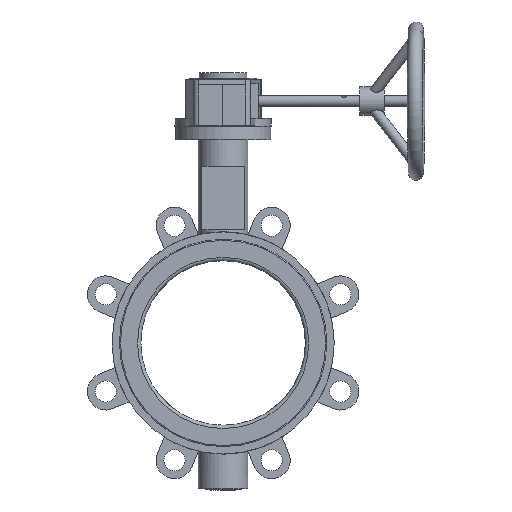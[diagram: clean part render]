
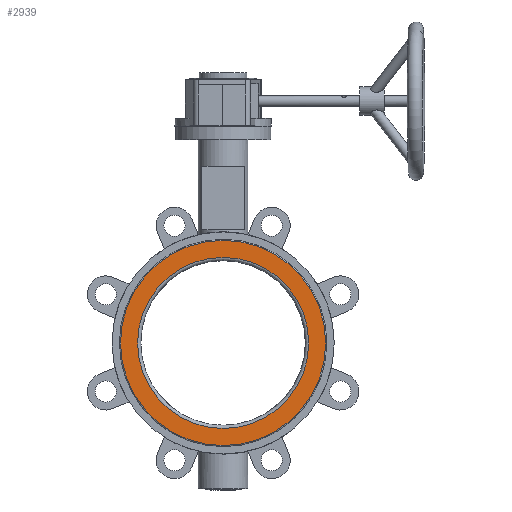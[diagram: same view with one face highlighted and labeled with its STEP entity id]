
A CAD part, front view. The second image highlights one B-rep face of the part: STEP entity #2939.
In plain terms, the highlighted planar face has unit normal (0, -1, 0) as drawn and (1, 0, 0) by its records, which use the part's own axes.
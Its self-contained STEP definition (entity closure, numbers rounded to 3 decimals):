
#19 = CIRCLE ( 'NONE', #9001, 80.889 ) ;
#269 = ORIENTED_EDGE ( 'NONE', *, *, #3215, .F. ) ;
#783 = DIRECTION ( 'NONE',  ( 0., 0., 1. ) ) ;
#1047 = DIRECTION ( 'NONE',  ( -1., 0., 0. ) ) ;
#1244 = AXIS2_PLACEMENT_3D ( 'NONE', #4931, #5654, #8684 ) ;
#1374 = AXIS2_PLACEMENT_3D ( 'NONE', #2301, #5416, #783 ) ;
#1709 = VERTEX_POINT ( 'NONE', #7707 ) ;
#2301 = CARTESIAN_POINT ( 'NONE',  ( 30., 97., 0. ) ) ;
#2939 = ADVANCED_FACE ( 'NONE', ( #5590, #3005 ), #4644, .F. ) ;
#3005 = FACE_BOUND ( 'NONE', #4725, .T. ) ;
#3215 = EDGE_CURVE ( 'NONE', #5739, #5739, #7582, .T. ) ;
#4644 = PLANE ( 'NONE',  #1374 ) ;
#4725 = EDGE_LOOP ( 'NONE', ( #6418 ) ) ;
#4931 = CARTESIAN_POINT ( 'NONE',  ( 30., 0., 0. ) ) ;
#5416 = DIRECTION ( 'NONE',  ( -1., 0., 0. ) ) ;
#5456 = EDGE_CURVE ( 'NONE', #1709, #1709, #19, .T. ) ;
#5590 = FACE_OUTER_BOUND ( 'NONE', #9765, .T. ) ;
#5654 = DIRECTION ( 'NONE',  ( -1., 0., 0. ) ) ;
#5739 = VERTEX_POINT ( 'NONE', #7650 ) ;
#6336 = DIRECTION ( 'NONE',  ( 0., 0., 1. ) ) ;
#6418 = ORIENTED_EDGE ( 'NONE', *, *, #5456, .T. ) ;
#7582 = CIRCLE ( 'NONE', #1244, 97. ) ;
#7650 = CARTESIAN_POINT ( 'NONE',  ( 30., 0., 97. ) ) ;
#7707 = CARTESIAN_POINT ( 'NONE',  ( 30., 0., 80.889 ) ) ;
#8642 = CARTESIAN_POINT ( 'NONE',  ( 30., 0., 0. ) ) ;
#8684 = DIRECTION ( 'NONE',  ( 0., 0., 1. ) ) ;
#9001 = AXIS2_PLACEMENT_3D ( 'NONE', #8642, #1047, #6336 ) ;
#9765 = EDGE_LOOP ( 'NONE', ( #269 ) ) ;
